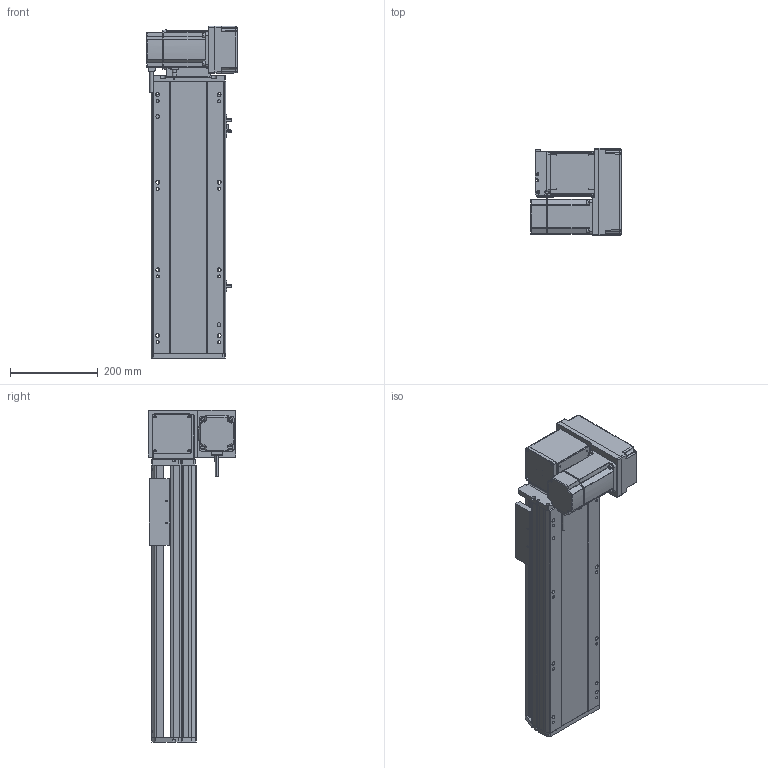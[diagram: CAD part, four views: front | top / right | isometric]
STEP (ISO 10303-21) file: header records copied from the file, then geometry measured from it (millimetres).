
FILE_DESCRIPTION (( 'STEP AP214' ), '1' );
FILE_NAME ('RTB17S-XX-350-RM-M75-C4.STEP', '2025-12-12T02:01:04', ( '' ), ( '' ), 'SwSTEP 2.0', 'SolidWorks 2018', '' );
FILE_SCHEMA (( 'AUTOMOTIVE_DESIGN' ));
Length unit declared in the file: millimetre
Products named in the file (15): EE672^RTB17S-XX-XX-RM-M75-C4; RTB17S-L-004-賑釱^RTB17S-賑釱_RTB17S-XX-XX-RM-M75-C4; RTH13-BL-012覜茼え俋离^RTB17S-賑釱_RTB17S-XX-XX-RM-M75-C4; RTB17-R-011菁釱^RTB17S-XX-XX-RM-M75-C4; RTB17S-賑釱^RTB17S-XX-XX-RM-M75-C4; RTB17S-RM-々湍釱蚾饜-750W^RTB17S-XX-XX-RM-M75-C4; RTB17S-XX-350-RM-M75-C4; 750W萇儂^RTB17S-XX-XX-RM-M75-C4; RTB17S-L-001-耜醱啣^RTB17S-XX-XX-RM-M75-C4; RTB22S-GY-017P^RTB17S-RM-々湍釱蚾饜-750W_RTB17S-XX-XX-RM-M75-C4; RTB22S-GY-008-M75--萇儂啣^RTB17S-RM-々湍釱蚾饜-750W_RTB17S-XX-XX-RM-M75-C4; RTB17S-L-007奻裔^RTB17S-XX-XX-RM-M75-C4; RTB22S-GY-018P^RTB17S-RM-々湍釱蚾饜-750W_RTB17S-XX-XX-RM-M75-C4; RTB17S-L-014-T20-P75--々湍釱^RTB17S-RM-々湍釱蚾饜-750W_RTB17S-XX-XX-RM-M75-C4; RTB22S-GY-005P^RTB17S-RM-々湍釱蚾饜-750W_RTB17S-XX-XX-RM-M75-C4
Assembly tree (17 placements, depth 3):
  RTB17S-XX-350-RM-M75-C4
    RTB17-R-011菁釱^RTB17S-XX-XX-RM-M75-C4
    EE672^RTB17S-XX-XX-RM-M75-C4  x3
    RTB17S-L-001-耜醱啣^RTB17S-XX-XX-RM-M75-C4
    RTB17S-賑釱^RTB17S-XX-XX-RM-M75-C4
      RTB17S-L-004-賑釱^RTB17S-賑釱_RTB17S-XX-XX-RM-M75-C4
      RTH13-BL-012覜茼え俋离^RTB17S-賑釱_RTB17S-XX-XX-RM-M75-C4
    RTB17S-L-007奻裔^RTB17S-XX-XX-RM-M75-C4
    750W萇儂^RTB17S-XX-XX-RM-M75-C4
    RTB17S-RM-々湍釱蚾饜-750W^RTB17S-XX-XX-RM-M75-C4
      RTB17S-L-014-T20-P75--々湍釱^RTB17S-RM-々湍釱蚾饜-750W_RTB17S-XX-XX-RM-M75-C4
      RTB22S-GY-005P^RTB17S-RM-々湍釱蚾饜-750W_RTB17S-XX-XX-RM-M75-C4
      RTB22S-GY-017P^RTB17S-RM-々湍釱蚾饜-750W_RTB17S-XX-XX-RM-M75-C4  x2
      RTB22S-GY-008-M75--萇儂啣^RTB17S-RM-々湍釱蚾饜-750W_RTB17S-XX-XX-RM-M75-C4
      RTB22S-GY-018P^RTB17S-RM-々湍釱蚾饜-750W_RTB17S-XX-XX-RM-M75-C4
Bounding box: 207.4 x 200 x 757.5 mm (x, y, z)
Volume: 8137885.8 mm3; surface area: 1272505.1 mm2
Topology: 17 solids, 17 shells, 2041 faces, 5620 edges, 3626 vertices
Faces by surface type: plane 964, cylinder 661, bspline 294, cone 110, sphere 8, torus 4
Entity records: 55798 total; most frequent: CARTESIAN_POINT 16284, ORIENTED_EDGE 8084, DIRECTION 7592, EDGE_CURVE 4042, AXIS2_PLACEMENT_3D 2646, VERTEX_POINT 2630, LINE 2300, VECTOR 2300
